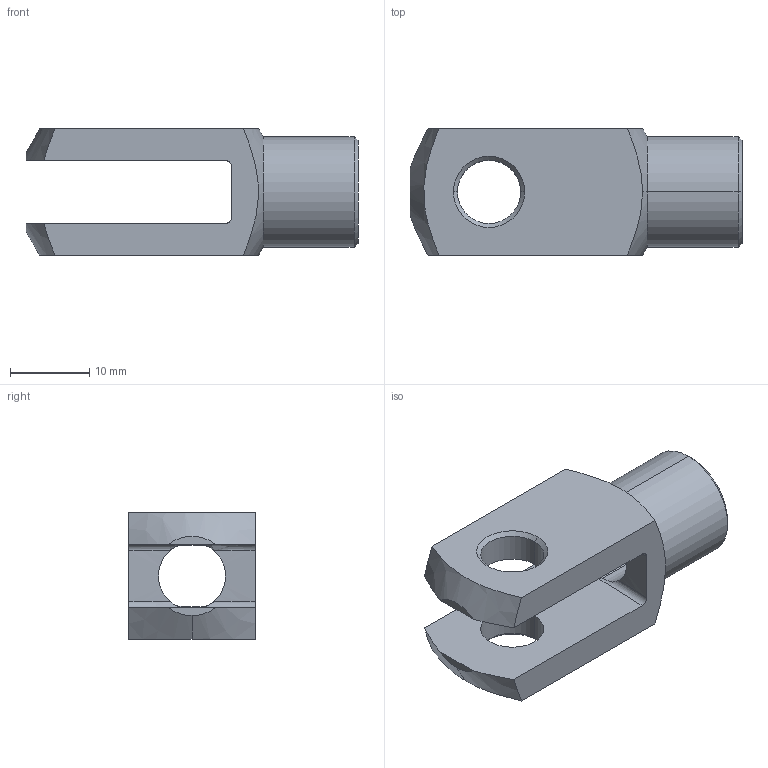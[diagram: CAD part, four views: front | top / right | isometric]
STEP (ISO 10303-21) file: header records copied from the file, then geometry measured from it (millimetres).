
FILE_DESCRIPTION (( 'STEP AP214' ), '1' );
FILE_NAME ('11.G816M10.STEP', '2017-10-30T09:38:38', ( '' ), ( '' ), 'SwSTEP 2.0', 'SolidWorks 2016', '' );
FILE_SCHEMA (( 'AUTOMOTIVE_DESIGN' ));
Length unit declared in the file: millimetre
Products named in the file (1): 11.G816M10
Bounding box: 42 x 16 x 16 mm (x, y, z)
Volume: 4600.3 mm3; surface area: 3453.9 mm2
Topology: 1 solids, 1 shells, 38 faces, 99 edges, 62 vertices
Faces by surface type: cone 16, cylinder 10, plane 9, torus 3
Entity records: 1400 total; most frequent: CARTESIAN_POINT 450, ORIENTED_EDGE 198, DIRECTION 184, EDGE_CURVE 99, AXIS2_PLACEMENT_3D 76, VERTEX_POINT 62, EDGE_LOOP 43, ADVANCED_FACE 38
